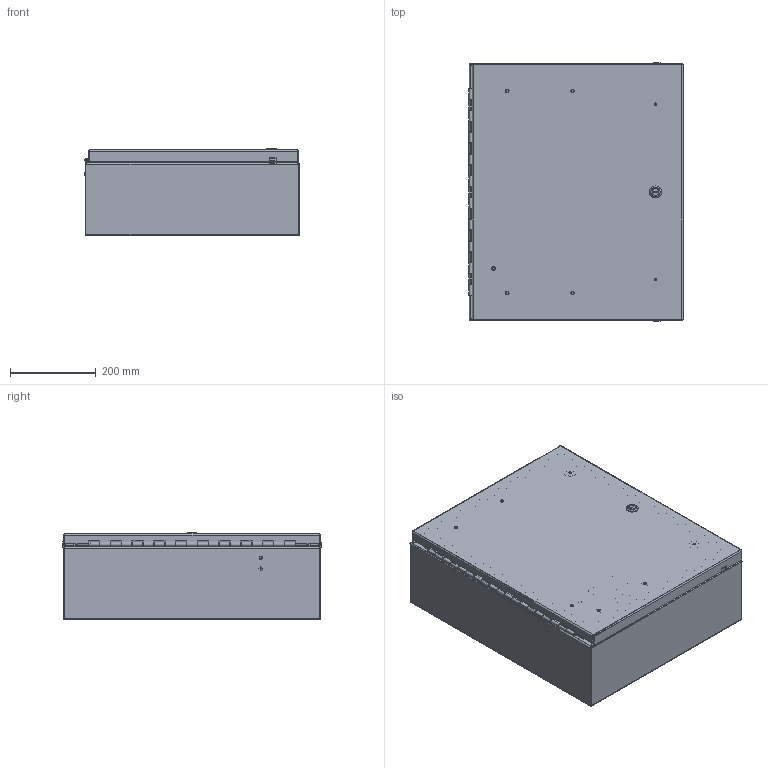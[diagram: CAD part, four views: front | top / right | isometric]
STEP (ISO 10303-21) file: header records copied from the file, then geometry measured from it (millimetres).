
FILE_DESCRIPTION (( 'STEP AP203' ), '1' );
FILE_NAME ('ecl605020ch.STEP', '2013-09-06T20:07:16', ( 'User' ), ( 'Pentair Inc' ), 'SwSTEP 2.0', 'SolidWorks 2010', '' );
FILE_SCHEMA (( 'CONFIG_CONTROL_DESIGN' ));
Length unit declared in the file: inch
Products named in the file (43): ecl605020ch; 89051909; 89052990; 87559706; 87554978_PEM HFHS-M6-15 ---N; 87554969; 87559863; 89051741; 89051718; 87559674; 87554979_87554979; 99411940_99411940; 89051701; 64138001; 91120001_91120001; 87780048; 87554967_OPEN; 87960059_Default 14 ga; 87956873; 87956874; 31122001_31122001; 99407583; 87956867; 99405181; 87956872; 87956875; 99414303_99414303; 27131001; 87554494; 89051758; 87793415_87793415; 87555256; 87788412; 35264001_pkgd; 99411498_99411498; 99411359; 23218101; 35125002; 99411078; 87746990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
Assembly tree (75 placements, depth 5):
  ecl605020ch
    89051909
      89052990
        87554978_PEM HFHS-M6-15 ---N  x4
        87559706
        99411940_99411940
      87559863
      87554969  x4
    89051741
      89051718
        87554979_87554979  x4
        87559674
        99411940_99411940
      91120001_91120001  x2
      89051758  x2
      64138001  x2
      87554494
      27131001  x2
      89051701
      99411839_99411839  x2
      87554967_OPEN
        87960059_Default 14 ga
          31122001_31122001
          87956874
          87956873
        99414303_99414303
        99407583
          87956872
          99405181
          87956867
          87956875
      87780048
    87746990
    87555256
      35125002  x2
      99411359  x8
      23218101  x4
      99411078  x4
      99411839_99411839  x2
      99411498_99411498
      35264001_pkgd
      87788412
    87559867
    99411839_99411839  x2
    87793415_87793415
    87544356_87544356
Bounding box: 500.73 x 604.06 x 204.41 mm (x, y, z)
Volume: 2782714.7 mm3; surface area: 2720476.7 mm2
Topology: 78 solids, 90 shells, 3378 faces, 8760 edges, 5614 vertices
Faces by surface type: plane 1682, cylinder 920, cone 435, torus 126, bspline 119, sphere 96
Entity records: 71622 total; most frequent: CARTESIAN_POINT 21586, DIRECTION 9416, ORIENTED_EDGE 9256, EDGE_CURVE 4632, AXIS2_PLACEMENT_3D 3480, VERTEX_POINT 2941, LINE 2456, VECTOR 2456
